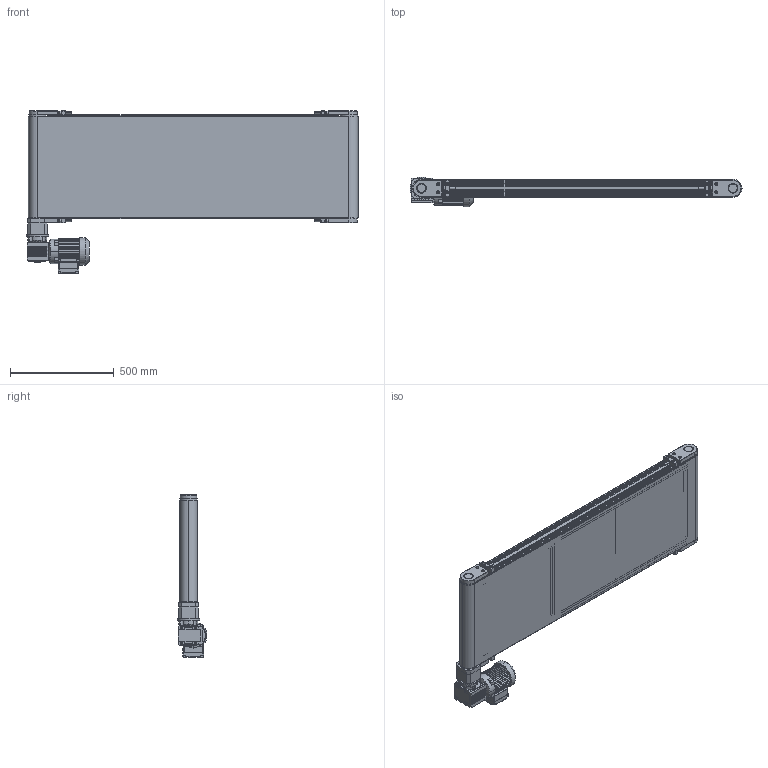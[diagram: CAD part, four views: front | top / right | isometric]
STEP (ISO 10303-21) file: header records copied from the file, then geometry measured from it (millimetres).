
FILE_DESCRIPTION(('STEP AP214'),'1');
FILE_NAME('fb-80-du-500-1500-1.stp','2017-04-25T14:46:48',('TraceParts'),('TraceParts S.A.'),'Spatial InterOp 3D',' ',' ');
FILE_SCHEMA(('automotive_design'));
Length unit declared in the file: millimetre
Products named in the file (43): fb-80-du-500-1500-1_1; fb-80-du-500-1500-1_2; fb-80-du-500-1500-1_3; fb-80-du-500-1500-1_4; fb-80-du-500-1500-1_5; fb-80-du-500-1500-1_6; fb-80-du-500-1500-1_7; fb-80-du-500-1500-1_8; fb-80-du-500-1500-1_9; fb-80-du-500-1500-1_10; fb-80-du-500-1500-1_11; fb-80-du-500-1500-1_12; fb-80-du-500-1500-1_13; fb-80-du-500-1500-1_14; fb-80-du-500-1500-1_15; fb-80-du-500-1500-1_16; fb-80-du-500-1500-1_17; fb-80-du-500-1500-1_18; fb-80-du-500-1500-1_19; fb-80-du-500-1500-1_20; fb-80-du-500-1500-1_21; fb-80-du-500-1500-1_22; fb-80-du-500-1500-1_23; fb-80-du-500-1500-1_24; fb-80-du-500-1500-1_25; fb-80-du-500-1500-1_26; fb-80-du-500-1500-1_27; fb-80-du-500-1500-1_28; fb-80-du-500-1500-1_29; fb-80-du-500-1500-1_30; fb-80-du-500-1500-1_31; fb-80-du-500-1500-1_32; fb-80-du-500-1500-1_33; fb-80-du-500-1500-1_34; fb-80-du-500-1500-1_35; fb-80-du-500-1500-1_36; fb-80-du-500-1500-1_37; fb-80-du-500-1500-1_38; fb-80-du-500-1500-1_39; fb-80-du-500-1500-1_40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
Bounding box: 1598.5 x 144 x 781.5 mm (x, y, z)
Volume: 17717214.2 mm3; surface area: 7463321.2 mm2
Topology: 43 solids, 52 shells, 3696 faces, 10273 edges, 6768 vertices
Faces by surface type: plane 1980, cylinder 1605, cone 105, sphere 4, torus 2
Entity records: 135665 total; most frequent: CARTESIAN_POINT 21127, DIRECTION 21103, ORIENTED_EDGE 20536, EDGE_CURVE 10268, AXIS2_PLACEMENT_3D 7231, VERTEX_POINT 6768, LINE 6641, VECTOR 6641
